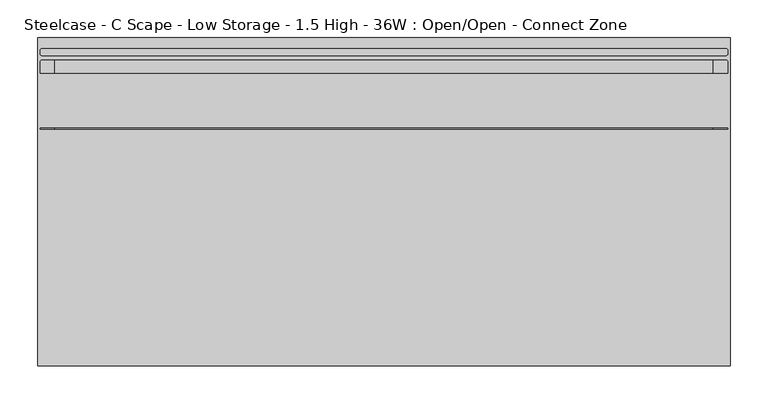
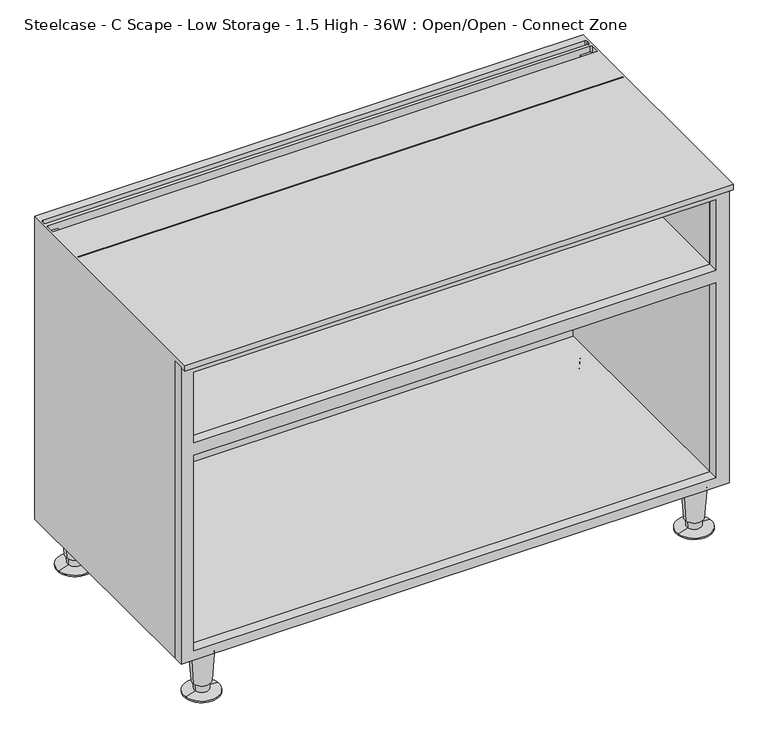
"""IFC4 building model written with IfcOpenShell, lengths in millimetres: furniture geometry, Steelcase - C Scape - Low Storage - 1.5 High - 36W : Open/Open - Connect Zone."""

from ifc_helpers import new_model, si_unit, frame, origin, place, context, project, spatial, polyline, circle_curve, outline, extrude, source, transform, mapped, element, save
from ifc_brep_helpers import plane_surface, cylinder_surface, revolved_surface, advanced_brep


def steelcase_c_scape_low_storage_1_5_high_36w_open_open_connect_6a6320e6(model_context):
    return source(origin(), model_context, "Body", "SolidModel", [
        extrude(outline(polyline([(76.2, 0.0), (76.2, 913.13), (599.44, 913.13), (599.44, 0.0), (76.2, 0.0)]), holes=[polyline([(458.7875121, 891.1617285), (458.7875121, 21.3382324), (582.93, 21.3382324), (582.93, 891.1617285), (458.7875121, 891.1617285)]), polyline([(92.7100024, 891.1617285), (92.7100024, 21.3382324), (436.8419, 21.3382324), (436.8419, 891.1617285), (92.7100024, 891.1617285)])]), frame((0.0, -421.6443408, 0.0), z_axis=(0.0, 1.0, 0.0), x_axis=(0.0, 0.0, 1.0)), (0.0, 0.0, 1.0), 17.2762904),
        advanced_brep(
        [(885.8598695, -31.5218435, 76.2), (848.1981305, -37.2840847, 76.2), (867.029, -34.4029641, 76.2), (881.9095214, -32.1262463, 19.05), (852.1484786, -36.6796819, 19.05), (879.4799345, -32.4979728, 19.05), (854.5780655, -36.3079555, 19.05), (878.791165, -32.6033544, 5.7545598), (855.266835, -36.2025738, 5.7545598), (896.1400485, -29.9489775, 2.5119506), (837.9179515, -38.8569507, 2.5119506), (896.1400485, -29.9489775, 0.0), (837.9179515, -38.8569507, 0.0), (867.029, -34.4029641, 0.0)],
        [
            (0, 1, circle_curve(frame((867.029, -34.4029641, 76.2), z_axis=(0.0, 0.0, 1.0), x_axis=(0.0, -1.0, 0.0)), 19.05)),
            (1, 2),
            (2, 0),
            (1, 0, circle_curve(frame((867.029, -34.4029641, 76.2), z_axis=(0.0, 0.0, 1.0), x_axis=(0.0, -1.0, 0.0)), 19.05)),
            (3, 4, circle_curve(frame((867.029, -34.4029641, 19.05), z_axis=(0.0, 0.0, 1.0), x_axis=(0.0, -1.0, 0.0)), 15.0536827)),
            (4, 1),
            (0, 3),
            (4, 3, circle_curve(frame((867.029, -34.4029641, 19.05), z_axis=(0.0, 0.0, 1.0), x_axis=(0.0, -1.0, 0.0)), 15.0536827)),
            (5, 6, circle_curve(frame((867.029, -34.4029641, 19.05), z_axis=(0.0, 0.0, 1.0), x_axis=(0.0, -1.0, 0.0)), 12.5958232)),
            (6, 4),
            (3, 5),
            (6, 5, circle_curve(frame((867.029, -34.4029641, 19.05), z_axis=(0.0, 0.0, 1.0), x_axis=(0.0, -1.0, 0.0)), 12.5958232)),
            (7, 8, circle_curve(frame((867.029, -34.4029641, 5.7545598), z_axis=(0.0, 0.0, 1.0), x_axis=(0.0, -1.0, 0.0)), 11.8990387)),
            (8, 6),
            (5, 7),
            (8, 7, circle_curve(frame((867.029, -34.4029641, 5.7545598), z_axis=(0.0, 0.0, 1.0), x_axis=(0.0, -1.0, 0.0)), 11.8990387)),
            (9, 10, circle_curve(frame((867.029, -34.4029641, 2.5119506), z_axis=(0.0, 0.0, 1.0), x_axis=(0.0, -1.0, 0.0)), 29.4498071)),
            (10, 8),
            (7, 9),
            (10, 9, circle_curve(frame((867.029, -34.4029641, 2.5119506), z_axis=(0.0, 0.0, 1.0), x_axis=(0.0, -1.0, 0.0)), 29.4498071)),
            (11, 12, circle_curve(frame((867.029, -34.4029641, 0.0), z_axis=(0.0, 0.0, 1.0), x_axis=(0.0, -1.0, 0.0)), 29.4498071)),
            (12, 10),
            (9, 11),
            (12, 11, circle_curve(frame((867.029, -34.4029641, 0.0), z_axis=(0.0, 0.0, 1.0), x_axis=(0.0, -1.0, 0.0)), 29.4498071)),
            (13, 12),
            (11, 13),
        ],
        [
            plane_surface(frame((867.029, -34.4029641, 76.2), z_axis=(0.0, 0.0, 1.0), x_axis=(0.0, -1.0, 0.0))),
            revolved_surface(polyline([(867.029, -53.4529641, 76.2), (867.029, -49.4566468, 19.05)]), (867.029, -34.4029641, 25.4), (0.0, 0.0, -1.0)),
            plane_surface(frame((867.029, -34.4029641, 19.05), z_axis=(0.0, 0.0, -1.0), x_axis=(0.0, -1.0, 0.0))),
            revolved_surface(polyline([(867.029, -46.9987873, 19.05), (867.029, -46.3020028, 5.7545598)]), (867.029, -34.4029641, 25.4), (0.0, 0.0, -1.0)),
            revolved_surface(polyline([(867.029, -46.3020028, 5.7545598), (867.029, -63.8527712, 2.5119506)]), (867.029, -34.4029641, 25.4), (0.0, 0.0, -1.0)),
            cylinder_surface(frame((867.029, -34.4029641, 25.4), z_axis=(0.0, 0.0, -1.0), x_axis=(0.0, -1.0, 0.0)), 29.4498071),
            plane_surface(frame((867.029, -34.4029641, 0.0), z_axis=(0.0, 0.0, -1.0), x_axis=(0.0, -1.0, 0.0))),
        ],
        [
            (0, [[1, 2, 3]]),
            (0, [[4, -3, -2]]),
            (1, [[5, 6, -1, 7]]),
            (1, [[8, -7, -4, -6]]),
            (2, [[9, 10, -5, 11]]),
            (2, [[12, -11, -8, -10]]),
            (3, [[13, 14, -9, 15]]),
            (3, [[16, -15, -12, -14]]),
            (4, [[17, 18, -13, 19]]),
            (4, [[20, -19, -16, -18]]),
            (5, [[21, 22, -17, 23]]),
            (5, [[24, -23, -20, -22]]),
            (6, [[25, -21, 26]]),
            (6, [[-26, -24, -25]]),
        ],
    ),
        advanced_brep(
        [(885.8598695, -397.1702762, 76.2), (848.1981305, -402.9325174, 76.2), (867.029, -400.0513968, 76.2), (881.9095214, -397.774679, 19.05), (852.1484786, -402.3281146, 19.05), (879.4799345, -398.1464055, 19.05), (854.5780655, -401.9563882, 19.05), (878.791165, -398.2517871, 5.7545598), (855.266835, -401.8510065, 5.7545598), (896.1400485, -395.5974102, 2.5119506), (837.9179515, -404.5053834, 2.5119506), (896.1400485, -395.5974102, 0.0), (837.9179515, -404.5053834, 0.0), (867.029, -400.0513968, 0.0)],
        [
            (0, 1, circle_curve(frame((867.029, -400.0513968, 76.2), z_axis=(0.0, 0.0, 1.0), x_axis=(0.0, -1.0, 0.0)), 19.05)),
            (1, 2),
            (2, 0),
            (1, 0, circle_curve(frame((867.029, -400.0513968, 76.2), z_axis=(0.0, 0.0, 1.0), x_axis=(0.0, -1.0, 0.0)), 19.05)),
            (3, 4, circle_curve(frame((867.029, -400.0513968, 19.05), z_axis=(0.0, 0.0, 1.0), x_axis=(0.0, -1.0, 0.0)), 15.0536827)),
            (4, 1),
            (0, 3),
            (4, 3, circle_curve(frame((867.029, -400.0513968, 19.05), z_axis=(0.0, 0.0, 1.0), x_axis=(0.0, -1.0, 0.0)), 15.0536827)),
            (5, 6, circle_curve(frame((867.029, -400.0513968, 19.05), z_axis=(0.0, 0.0, 1.0), x_axis=(0.0, -1.0, 0.0)), 12.5958232)),
            (6, 4),
            (3, 5),
            (6, 5, circle_curve(frame((867.029, -400.0513968, 19.05), z_axis=(0.0, 0.0, 1.0), x_axis=(0.0, -1.0, 0.0)), 12.5958232)),
            (7, 8, circle_curve(frame((867.029, -400.0513968, 5.7545598), z_axis=(0.0, 0.0, 1.0), x_axis=(0.0, -1.0, 0.0)), 11.8990387)),
            (8, 6),
            (5, 7),
            (8, 7, circle_curve(frame((867.029, -400.0513968, 5.7545598), z_axis=(0.0, 0.0, 1.0), x_axis=(0.0, -1.0, 0.0)), 11.8990387)),
            (9, 10, circle_curve(frame((867.029, -400.0513968, 2.5119506), z_axis=(0.0, 0.0, 1.0), x_axis=(0.0, -1.0, 0.0)), 29.4498071)),
            (10, 8),
            (7, 9),
            (10, 9, circle_curve(frame((867.029, -400.0513968, 2.5119506), z_axis=(0.0, 0.0, 1.0), x_axis=(0.0, -1.0, 0.0)), 29.4498071)),
            (11, 12, circle_curve(frame((867.029, -400.0513968, 0.0), z_axis=(0.0, 0.0, 1.0), x_axis=(0.0, -1.0, 0.0)), 29.4498071)),
            (12, 10),
            (9, 11),
            (12, 11, circle_curve(frame((867.029, -400.0513968, 0.0), z_axis=(0.0, 0.0, 1.0), x_axis=(0.0, -1.0, 0.0)), 29.4498071)),
            (13, 12),
            (11, 13),
        ],
        [
            plane_surface(frame((867.029, -400.0513968, 76.2), z_axis=(0.0, 0.0, 1.0), x_axis=(0.0, -1.0, 0.0))),
            revolved_surface(polyline([(867.029, -419.1013968, 76.2), (867.029, -415.1050795, 19.05)]), (867.029, -400.0513968, 25.4), (0.0, 0.0, -1.0)),
            plane_surface(frame((867.029, -400.0513968, 19.05), z_axis=(0.0, 0.0, -1.0), x_axis=(0.0, -1.0, 0.0))),
            revolved_surface(polyline([(867.029, -412.64722, 19.05), (867.029, -411.9504355, 5.7545598)]), (867.029, -400.0513968, 25.4), (0.0, 0.0, -1.0)),
            revolved_surface(polyline([(867.029, -411.9504355, 5.7545598), (867.029, -429.5012039, 2.5119506)]), (867.029, -400.0513968, 25.4), (0.0, 0.0, -1.0)),
            cylinder_surface(frame((867.029, -400.0513968, 25.4), z_axis=(0.0, 0.0, -1.0), x_axis=(0.0, -1.0, 0.0)), 29.4498071),
            plane_surface(frame((867.029, -400.0513968, 0.0), z_axis=(0.0, 0.0, -1.0), x_axis=(0.0, -1.0, 0.0))),
        ],
        [
            (0, [[1, 2, 3]]),
            (0, [[4, -3, -2]]),
            (1, [[5, 6, -1, 7]]),
            (1, [[8, -7, -4, -6]]),
            (2, [[9, 10, -5, 11]]),
            (2, [[12, -11, -8, -10]]),
            (3, [[13, 14, -9, 15]]),
            (3, [[16, -15, -12, -14]]),
            (4, [[17, 18, -13, 19]]),
            (4, [[20, -19, -16, -18]]),
            (5, [[21, 22, -17, 23]]),
            (5, [[24, -23, -20, -22]]),
            (6, [[25, -21, 26]]),
            (6, [[-26, -24, -25]]),
        ],
    ),
        advanced_brep(
        [(65.5422821, -397.1702762, 76.2), (27.8805432, -402.9325174, 76.2), (46.7114126, -400.0513968, 76.2), (61.5919341, -397.774679, 19.05), (31.8308912, -402.3281146, 19.05), (59.1623471, -398.1464055, 19.05), (34.2604781, -401.9563882, 19.05), (58.4735776, -398.2517871, 5.7545598), (34.9492476, -401.8510065, 5.7545598), (75.8224611, -395.5974102, 2.5119506), (17.6003641, -404.5053834, 2.5119506), (75.8224611, -395.5974102, 0.0), (17.6003641, -404.5053834, 0.0), (46.7114126, -400.0513968, 0.0)],
        [
            (0, 1, circle_curve(frame((46.7114126, -400.0513968, 76.2), z_axis=(0.0, 0.0, 1.0), x_axis=(0.0, -1.0, 0.0)), 19.05)),
            (1, 2),
            (2, 0),
            (1, 0, circle_curve(frame((46.7114126, -400.0513968, 76.2), z_axis=(0.0, 0.0, 1.0), x_axis=(0.0, -1.0, 0.0)), 19.05)),
            (3, 4, circle_curve(frame((46.7114126, -400.0513968, 19.05), z_axis=(0.0, 0.0, 1.0), x_axis=(0.0, -1.0, 0.0)), 15.0536827)),
            (4, 1),
            (0, 3),
            (4, 3, circle_curve(frame((46.7114126, -400.0513968, 19.05), z_axis=(0.0, 0.0, 1.0), x_axis=(0.0, -1.0, 0.0)), 15.0536827)),
            (5, 6, circle_curve(frame((46.7114126, -400.0513968, 19.05), z_axis=(0.0, 0.0, 1.0), x_axis=(0.0, -1.0, 0.0)), 12.5958232)),
            (6, 4),
            (3, 5),
            (6, 5, circle_curve(frame((46.7114126, -400.0513968, 19.05), z_axis=(0.0, 0.0, 1.0), x_axis=(0.0, -1.0, 0.0)), 12.5958232)),
            (7, 8, circle_curve(frame((46.7114126, -400.0513968, 5.7545598), z_axis=(0.0, 0.0, 1.0), x_axis=(0.0, -1.0, 0.0)), 11.8990387)),
            (8, 6),
            (5, 7),
            (8, 7, circle_curve(frame((46.7114126, -400.0513968, 5.7545598), z_axis=(0.0, 0.0, 1.0), x_axis=(0.0, -1.0, 0.0)), 11.8990387)),
            (9, 10, circle_curve(frame((46.7114126, -400.0513968, 2.5119506), z_axis=(0.0, 0.0, 1.0), x_axis=(0.0, -1.0, 0.0)), 29.4498071)),
            (10, 8),
            (7, 9),
            (10, 9, circle_curve(frame((46.7114126, -400.0513968, 2.5119506), z_axis=(0.0, 0.0, 1.0), x_axis=(0.0, -1.0, 0.0)), 29.4498071)),
            (11, 12, circle_curve(frame((46.7114126, -400.0513968, 0.0), z_axis=(0.0, 0.0, 1.0), x_axis=(0.0, -1.0, 0.0)), 29.4498071)),
            (12, 10),
            (9, 11),
            (12, 11, circle_curve(frame((46.7114126, -400.0513968, 0.0), z_axis=(0.0, 0.0, 1.0), x_axis=(0.0, -1.0, 0.0)), 29.4498071)),
            (13, 12),
            (11, 13),
        ],
        [
            plane_surface(frame((46.7114126, -400.0513968, 76.2), z_axis=(0.0, 0.0, 1.0), x_axis=(0.0, -1.0, 0.0))),
            revolved_surface(polyline([(46.7114126, -419.1013968, 76.2), (46.7114126, -415.1050795, 19.05)]), (46.7114126, -400.0513968, 25.4), (0.0, 0.0, -1.0)),
            plane_surface(frame((46.7114126, -400.0513968, 19.05), z_axis=(0.0, 0.0, -1.0), x_axis=(0.0, -1.0, 0.0))),
            revolved_surface(polyline([(46.7114126, -412.64722, 19.05), (46.7114126, -411.9504355, 5.7545598)]), (46.7114126, -400.0513968, 25.4), (0.0, 0.0, -1.0)),
            revolved_surface(polyline([(46.7114126, -411.9504355, 5.7545598), (46.7114126, -429.5012039, 2.5119506)]), (46.7114126, -400.0513968, 25.4), (0.0, 0.0, -1.0)),
            cylinder_surface(frame((46.7114126, -400.0513968, 25.4), z_axis=(0.0, 0.0, -1.0), x_axis=(0.0, -1.0, 0.0)), 29.4498071),
            plane_surface(frame((46.7114126, -400.0513968, 0.0), z_axis=(0.0, 0.0, -1.0), x_axis=(0.0, -1.0, 0.0))),
        ],
        [
            (0, [[1, 2, 3]]),
            (0, [[4, -3, -2]]),
            (1, [[5, 6, -1, 7]]),
            (1, [[8, -7, -4, -6]]),
            (2, [[9, 10, -5, 11]]),
            (2, [[12, -11, -8, -10]]),
            (3, [[13, 14, -9, 15]]),
            (3, [[16, -15, -12, -14]]),
            (4, [[17, 18, -13, 19]]),
            (4, [[20, -19, -16, -18]]),
            (5, [[21, 22, -17, 23]]),
            (5, [[24, -23, -20, -22]]),
            (6, [[25, -21, 26]]),
            (6, [[-26, -24, -25]]),
        ],
    ),
        advanced_brep(
        [(65.5422821, -31.5218435, 76.2), (27.8805432, -37.2840847, 76.2), (46.7114126, -34.4029641, 76.2), (61.5919341, -32.1262463, 19.05), (31.8308912, -36.6796819, 19.05), (59.1623471, -32.4979728, 19.05), (34.2604781, -36.3079555, 19.05), (58.4735776, -32.6033544, 5.7545598), (34.9492476, -36.2025738, 5.7545598), (75.8224611, -29.9489775, 2.5119506), (17.6003641, -38.8569507, 2.5119506), (75.8224611, -29.9489775, 0.0), (17.6003641, -38.8569507, 0.0), (46.7114126, -34.4029641, 0.0)],
        [
            (0, 1, circle_curve(frame((46.7114126, -34.4029641, 76.2), z_axis=(0.0, 0.0, 1.0), x_axis=(0.0, -1.0, 0.0)), 19.05)),
            (1, 2),
            (2, 0),
            (1, 0, circle_curve(frame((46.7114126, -34.4029641, 76.2), z_axis=(0.0, 0.0, 1.0), x_axis=(0.0, -1.0, 0.0)), 19.05)),
            (3, 4, circle_curve(frame((46.7114126, -34.4029641, 19.05), z_axis=(0.0, 0.0, 1.0), x_axis=(0.0, -1.0, 0.0)), 15.0536827)),
            (4, 1),
            (0, 3),
            (4, 3, circle_curve(frame((46.7114126, -34.4029641, 19.05), z_axis=(0.0, 0.0, 1.0), x_axis=(0.0, -1.0, 0.0)), 15.0536827)),
            (5, 6, circle_curve(frame((46.7114126, -34.4029641, 19.05), z_axis=(0.0, 0.0, 1.0), x_axis=(0.0, -1.0, 0.0)), 12.5958232)),
            (6, 4),
            (3, 5),
            (6, 5, circle_curve(frame((46.7114126, -34.4029641, 19.05), z_axis=(0.0, 0.0, 1.0), x_axis=(0.0, -1.0, 0.0)), 12.5958232)),
            (7, 8, circle_curve(frame((46.7114126, -34.4029641, 5.7545598), z_axis=(0.0, 0.0, 1.0), x_axis=(0.0, -1.0, 0.0)), 11.8990387)),
            (8, 6),
            (5, 7),
            (8, 7, circle_curve(frame((46.7114126, -34.4029641, 5.7545598), z_axis=(0.0, 0.0, 1.0), x_axis=(0.0, -1.0, 0.0)), 11.8990387)),
            (9, 10, circle_curve(frame((46.7114126, -34.4029641, 2.5119506), z_axis=(0.0, 0.0, 1.0), x_axis=(0.0, -1.0, 0.0)), 29.4498071)),
            (10, 8),
            (7, 9),
            (10, 9, circle_curve(frame((46.7114126, -34.4029641, 2.5119506), z_axis=(0.0, 0.0, 1.0), x_axis=(0.0, -1.0, 0.0)), 29.4498071)),
            (11, 12, circle_curve(frame((46.7114126, -34.4029641, 0.0), z_axis=(0.0, 0.0, 1.0), x_axis=(0.0, -1.0, 0.0)), 29.4498071)),
            (12, 10),
            (9, 11),
            (12, 11, circle_curve(frame((46.7114126, -34.4029641, 0.0), z_axis=(0.0, 0.0, 1.0), x_axis=(0.0, -1.0, 0.0)), 29.4498071)),
            (13, 12),
            (11, 13),
        ],
        [
            plane_surface(frame((46.7114126, -34.4029641, 76.2), z_axis=(0.0, 0.0, 1.0), x_axis=(0.0, -1.0, 0.0))),
            revolved_surface(polyline([(46.7114126, -53.4529641, 76.2), (46.7114126, -49.4566468, 19.05)]), (46.7114126, -34.4029641, 25.4), (0.0, 0.0, -1.0)),
            plane_surface(frame((46.7114126, -34.4029641, 19.05), z_axis=(0.0, 0.0, -1.0), x_axis=(0.0, -1.0, 0.0))),
            revolved_surface(polyline([(46.7114126, -46.9987873, 19.05), (46.7114126, -46.3020028, 5.7545598)]), (46.7114126, -34.4029641, 25.4), (0.0, 0.0, -1.0)),
            revolved_surface(polyline([(46.7114126, -46.3020028, 5.7545598), (46.7114126, -63.8527712, 2.5119506)]), (46.7114126, -34.4029641, 25.4), (0.0, 0.0, -1.0)),
            cylinder_surface(frame((46.7114126, -34.4029641, 25.4), z_axis=(0.0, 0.0, -1.0), x_axis=(0.0, -1.0, 0.0)), 29.4498071),
            plane_surface(frame((46.7114126, -34.4029641, 0.0), z_axis=(0.0, 0.0, -1.0), x_axis=(0.0, -1.0, 0.0))),
        ],
        [
            (0, [[1, 2, 3]]),
            (0, [[4, -3, -2]]),
            (1, [[5, 6, -1, 7]]),
            (1, [[8, -7, -4, -6]]),
            (2, [[9, 10, -5, 11]]),
            (2, [[12, -11, -8, -10]]),
            (3, [[13, 14, -9, 15]]),
            (3, [[16, -15, -12, -14]]),
            (4, [[17, 18, -13, 19]]),
            (4, [[20, -19, -16, -18]]),
            (5, [[21, 22, -17, 23]]),
            (5, [[24, -23, -20, -22]]),
            (6, [[25, -21, 26]]),
            (6, [[-26, -24, -25]]),
        ],
    ),
        advanced_brep(
        [(910.3272317, -120.6444193, 609.6), (910.3272317, -119.3775195, 609.6), (910.3272317, -119.3775195, 599.44), (910.3272317, -120.6444193, 599.44), (910.3272317, -46.4703418, 609.6), (910.3272317, -32.274699, 609.6), (910.3272317, -32.274699, 599.44), (910.3272317, -46.4703418, 599.44), (910.3272317, -20.3138654, 609.6), (910.3272317, -17.0388453, 609.6), (910.3272317, -17.0388453, 599.44), (910.3272317, -20.3138654, 599.44), (913.13, 0.0055807, 609.6), (913.13, -433.07, 609.6), (913.13, -433.07, 599.44), (913.13, -404.3680504, 599.44), (913.13, -404.3680504, 76.2), (913.13, 0.0, 76.2), (0.0, -433.07, 609.6), (-0.012551, 0.0055807, 609.6), (907.6308823, -29.5783496, 609.6), (2.7826272, -46.4703418, 609.6), (2.7826272, -32.0458511, 609.6), (5.2501287, -29.5783496, 609.6), (907.3507358, -23.2903613, 609.6), (5.5670648, -23.2903613, 609.6), (2.7826272, -20.5059237, 609.6), (2.7826272, -17.0388453, 609.6), (5.4794022, -14.3420703, 609.6), (907.6304567, -14.3420703, 609.6), (2.7826272, -119.3775195, 609.6), (2.7826272, -120.6444193, 609.6), (0.0, 0.0055807, 76.2), (571.8775189, 0.0055807, 466.2677968), (340.6174811, 0.0055807, 466.2677968), (340.6174811, 0.0055807, 432.6382043), (456.2475, 0.0055807, 432.6382043), (571.8775189, 0.0055807, 432.6382043), (571.8775189, -9.5194193, 466.2677968), (340.6174811, -9.5194193, 466.2677968), (571.8775189, -9.5194193, 450.8499879), (340.6174811, -9.5194193, 450.8499879), (5.2501287, -29.5783496, 599.44), (21.3256814, -29.5783496, 599.44), (21.3256814, -29.5783496, 458.7875121), (891.1617285, -29.5783496, 458.7875121), (891.1617285, -29.5783496, 599.44), (907.6308823, -29.5783496, 599.44), (891.1617285, -119.3775195, 599.44), (21.3256814, -119.3775195, 599.44), (21.3256814, -46.4703418, 599.44), (891.1617285, -46.4703418, 599.44), (907.3507358, -23.2903613, 599.44), (5.5670648, -23.2903613, 599.44), (2.7826272, -20.5059237, 599.44), (2.7826272, -32.0458511, 599.44), (2.7826272, -46.4703418, 599.44), (2.7826272, -119.3775195, 599.44), (5.4794022, -14.3420703, 599.44), (907.6304567, -14.3420703, 599.44), (2.7826272, -17.0388453, 599.44), (21.3256814, -120.6444193, 599.44), (2.7826272, -120.6444193, 599.44), (891.1617285, -120.6444193, 599.44), (21.3256814, -404.3680504, 92.7100024), (891.1617285, -404.3680504, 92.7100024), (891.1617285, -9.5194193, 92.7100024), (21.3256814, -9.5194193, 92.7100024), (0.0, -404.3680504, 76.2), (0.0, -404.3680504, 599.44), (0.0, -433.07, 599.44), (891.1617285, -404.3680504, 599.44), (891.1617285, -404.3680504, 458.7875121), (21.3256814, -404.3680504, 458.7875121), (21.3256814, -404.3680504, 599.44), (21.3256814, -404.3680504, 450.8499879), (891.1617285, -404.3680504, 450.8499879), (21.3256814, -126.9863574, 599.44), (891.1617285, -126.9863574, 599.44), (21.3256814, -126.9863574, 458.7875121), (891.1617285, -126.9863574, 458.7875121), (891.1617285, -120.6444193, 458.7875121), (21.3256814, -120.6444193, 458.7875121), (21.3256814, -9.5194193, 450.8499879), (891.1617285, -9.5194193, 450.8499879), (571.8775189, -9.5194193, 432.6382043), (456.2475, -9.5194193, 432.6382043), (340.6174811, -9.5194193, 432.6382043)],
        [
            (0, 1),
            (1, 2),
            (2, 3),
            (3, 0),
            (4, 5),
            (5, 6),
            (6, 7),
            (7, 4),
            (8, 9),
            (9, 10),
            (10, 11),
            (11, 8),
            (12, 13),
            (13, 14),
            (14, 15),
            (15, 16),
            (16, 17),
            (17, 12),
            (18, 13),
            (12, 19),
            (19, 18),
            (20, 5, circle_curve(frame((907.6308823, -32.274699, 609.6), z_axis=(0.0, 0.0, -1.0), x_axis=(1.0, 0.0, 0.0)), 2.6963494)),
            (4, 21),
            (21, 22),
            (22, 23, circle_curve(frame((5.2501287, -32.0458511, 609.6), z_axis=(0.0, 0.0, -1.0), x_axis=(1.0, 0.0, 0.0)), 2.4675015)),
            (23, 20),
            (8, 24, circle_curve(frame((907.3507358, -20.3138654, 609.6), z_axis=(0.0, 0.0, -1.0), x_axis=(1.0, 0.0, 0.0)), 2.9764959)),
            (24, 25),
            (25, 26, circle_curve(frame((5.5670648, -20.5059237, 609.6), z_axis=(0.0, 0.0, -1.0), x_axis=(1.0, 0.0, 0.0)), 2.7844376)),
            (26, 27),
            (27, 28, circle_curve(frame((5.4794022, -17.0388453, 609.6), z_axis=(0.0, 0.0, -1.0), x_axis=(1.0, 0.0, 0.0)), 2.696775)),
            (28, 29),
            (29, 9, circle_curve(frame((907.6304567, -17.0388453, 609.6), z_axis=(0.0, 0.0, -1.0), x_axis=(1.0, 0.0, 0.0)), 2.696775)),
            (30, 1),
            (0, 31),
            (31, 30),
            (17, 32),
            (32, 19),
            (33, 34),
            (34, 35),
            (35, 36),
            (36, 37),
            (37, 33),
            (33, 38),
            (38, 39),
            (39, 34),
            (38, 40),
            (40, 41),
            (41, 39),
            (23, 42),
            (42, 43),
            (43, 44),
            (44, 45),
            (45, 46),
            (46, 47),
            (47, 20),
            (48, 49),
            (49, 50),
            (50, 51),
            (51, 48),
            (47, 6, circle_curve(frame((907.6308823, -32.274699, 599.44), z_axis=(0.0, 0.0, -1.0), x_axis=(1.0, 0.0, 0.0)), 2.6963494)),
            (11, 52, circle_curve(frame((907.3507358, -20.3138654, 599.44), z_axis=(0.0, 0.0, -1.0), x_axis=(1.0, 0.0, 0.0)), 2.9764959)),
            (52, 24),
            (52, 53),
            (53, 25),
            (53, 54, circle_curve(frame((5.5670648, -20.5059237, 599.44), z_axis=(0.0, 0.0, -1.0), x_axis=(1.0, 0.0, 0.0)), 2.7844376)),
            (54, 26),
            (22, 55),
            (55, 42, circle_curve(frame((5.2501287, -32.0458511, 599.44), z_axis=(0.0, 0.0, -1.0), x_axis=(1.0, 0.0, 0.0)), 2.4675015)),
            (7, 51),
            (50, 56),
            (56, 21),
            (30, 57),
            (57, 49),
            (48, 2),
            (28, 58),
            (58, 59),
            (59, 29),
            (59, 10, circle_curve(frame((907.6304567, -17.0388453, 599.44), z_axis=(0.0, 0.0, -1.0), x_axis=(1.0, 0.0, 0.0)), 2.696775)),
            (27, 60),
            (60, 58, circle_curve(frame((5.4794022, -17.0388453, 599.44), z_axis=(0.0, 0.0, -1.0), x_axis=(1.0, 0.0, 0.0)), 2.696775)),
            (61, 49),
            (57, 62),
            (62, 61),
            (48, 63),
            (63, 3),
            (60, 54),
            (50, 43),
            (55, 56),
            (46, 51),
            (64, 65),
            (65, 66),
            (66, 67),
            (67, 64),
            (16, 68),
            (68, 32),
            (68, 69),
            (69, 70),
            (70, 18),
            (15, 71),
            (71, 72),
            (72, 73),
            (73, 74),
            (74, 69),
            (64, 75),
            (75, 76),
            (76, 65),
            (70, 14),
            (74, 77),
            (77, 78),
            (78, 71),
            (77, 79),
            (79, 80),
            (80, 78),
            (63, 81),
            (81, 82),
            (82, 61),
            (62, 31),
            (44, 82),
            (81, 45),
            (79, 73),
            (72, 80),
            (75, 83),
            (83, 41),
            (40, 84),
            (84, 76),
            (67, 83),
            (84, 66),
            (85, 86),
            (86, 87),
            (87, 41),
            (40, 85),
            (37, 85),
            (36, 86),
            (35, 87),
        ],
        [
            plane_surface(frame((910.3272317, -120.6444193, 609.6), z_axis=(-1.0, 0.0, 0.0), x_axis=(0.0, 0.0, 1.0))),
            plane_surface(frame((913.13, -120.6444193, 609.6), z_axis=(1.0, 0.0, 0.0), x_axis=(0.0, 0.0, -1.0))),
            plane_surface(frame((910.3272317, -120.6444193, 609.6), z_axis=(0.0, 0.0, 1.0), x_axis=(1.0, 0.0, 0.0))),
            plane_surface(frame((910.3272317, 0.0055807, 609.6), z_axis=(0.0, 1.0, 0.0), x_axis=(1.0, 0.0, 0.0))),
            plane_surface(frame((910.3272317, 0.0055807, 466.2677968), z_axis=(0.0, 0.0, -1.0), x_axis=(1.0, 0.0, 0.0))),
            plane_surface(frame((910.3272317, -9.5194193, 466.2677968), z_axis=(0.0, 1.0, 0.0), x_axis=(1.0, 0.0, 0.0))),
            plane_surface(frame((910.3272317, -29.5783496, 458.7875121), z_axis=(0.0, -1.0, 0.0), x_axis=(1.0, 0.0, 0.0))),
            plane_surface(frame((910.3272317, -29.5783496, 599.44), z_axis=(0.0, 0.0, -1.0), x_axis=(1.0, 0.0, 0.0))),
            revolved_surface(polyline([(910.3272317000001, -32.274699, 599.44), (910.3272317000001, -32.274699, 609.6)]), (907.6308823, -32.274699, 599.44), (0.0, 0.0, -1.0)),
            revolved_surface(polyline([(910.3272317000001, -20.3138654, 599.44), (910.3272317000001, -20.3138654, 609.6)]), (907.3507358, -20.3138654, 599.44), (0.0, 0.0, -1.0)),
            plane_surface(frame((907.3507358, -23.2903613, 609.6), z_axis=(0.0, 1.0, 0.0), x_axis=(0.0, 0.0, -1.0))),
            revolved_surface(polyline([(8.3515024, -20.5059237, 599.44), (8.3515024, -20.5059237, 609.6)]), (5.5670648, -20.5059237, 599.44), (0.0, 0.0, -1.0)),
            revolved_surface(polyline([(7.7176302, -32.0458511, 599.44), (7.7176302, -32.0458511, 609.6)]), (5.2501287, -32.0458511, 599.44), (0.0, 0.0, -1.0)),
            plane_surface(frame((910.3272317, -46.4703418, 609.6), z_axis=(0.0, 1.0, 0.0), x_axis=(0.0, 0.0, -1.0))),
            plane_surface(frame((2.7826272, -119.3775195, 609.6), z_axis=(0.0, -1.0, 0.0), x_axis=(0.0, 0.0, -1.0))),
            plane_surface(frame((5.4794022, -14.3420703, 609.6), z_axis=(0.0, -1.0, 0.0), x_axis=(0.0, 0.0, -1.0))),
            revolved_surface(polyline([(910.3272317, -17.0388453, 599.44), (910.3272317, -17.0388453, 609.6)]), (907.6304567, -17.0388453, 41.6295811), (0.0, 0.0, -1.0)),
            revolved_surface(polyline([(8.1761772, -17.0388453, 599.44), (8.1761772, -17.0388453, 609.6)]), (5.4794022, -17.0388453, 41.6295811), (0.0, 0.0, -1.0)),
            plane_surface(frame((910.3272317, 0.0055807, 599.44), z_axis=(0.0, 0.0, 1.0), x_axis=(-1.0, 0.0, 0.0))),
            plane_surface(frame((0.0, 0.0, 92.7100024), z_axis=(0.0, 0.0, 1.0), x_axis=(-1.0, 0.0, 0.0))),
            plane_surface(frame((0.0, 0.0, 76.2), z_axis=(0.0, 0.0, -1.0), x_axis=(1.0, 0.0, 0.0))),
            plane_surface(frame((0.0, 0.0, 92.7100024), z_axis=(-1.0, 0.0, 0.0), x_axis=(0.0, 0.0, -1.0))),
            plane_surface(frame((0.0, -404.3680504, 92.7100024), z_axis=(0.0, -1.0, 0.0), x_axis=(0.0, 0.0, -1.0))),
            plane_surface(frame((913.13, -433.07, 609.6), z_axis=(0.0, -1.0, 0.0), x_axis=(-1.0, 0.0, 0.0))),
            plane_surface(frame((913.13, -433.07, 599.44), z_axis=(0.0, 0.0, -1.0), x_axis=(-1.0, 0.0, 0.0))),
            plane_surface(frame((913.13, -126.9863574, 599.44), z_axis=(0.0, -1.0, 0.0), x_axis=(-1.0, 0.0, 0.0))),
            plane_surface(frame((913.13, -120.6444193, 457.1999955), z_axis=(0.0, 1.0, 0.0), x_axis=(-1.0, 0.0, 0.0))),
            plane_surface(frame((0.0, -9.5194193, 458.7875121), z_axis=(0.0, 0.0, 1.0), x_axis=(-1.0, 0.0, 0.0))),
            plane_surface(frame((0.0, -9.5194193, 450.8499879), z_axis=(0.0, 0.0, -1.0), x_axis=(1.0, 0.0, 0.0))),
            plane_surface(frame((21.3256814, -404.3680504, 599.44), z_axis=(1.0, 0.0, 0.0), x_axis=(0.0, 0.0, -1.0))),
            plane_surface(frame((891.1617285, -9.5194193, 599.44), z_axis=(-1.0, 0.0, 0.0), x_axis=(0.0, 0.0, -1.0))),
            plane_surface(frame((2.7826272, -120.6444193, 599.44), z_axis=(1.0, 0.0, 0.0), x_axis=(0.0, 1.0, 0.0))),
            plane_surface(frame((571.8775189, -9.5194193, 459.9177968), z_axis=(0.0, -1.0, 0.0), x_axis=(0.0, 0.0, -1.0))),
            plane_surface(frame((571.8775189, -9.5194193, 466.2677968), z_axis=(-1.0, 0.0, 0.0), x_axis=(0.0, 1.0, 0.0))),
            plane_surface(frame((571.8775189, -9.5194193, 432.6382043), z_axis=(0.0, 0.0, 1.0), x_axis=(0.0, 1.0, 0.0))),
            plane_surface(frame((456.2475, -9.5194193, 432.6382043), z_axis=(0.0, 0.0, 1.0), x_axis=(0.0, 1.0, 0.0))),
            plane_surface(frame((340.6174811, -9.5194193, 432.6382043), z_axis=(1.0, 0.0, 0.0), x_axis=(0.0, 1.0, 0.0))),
        ],
        [
            (0, [[1, 2, 3, 4]]),
            (0, [[5, 6, 7, 8]]),
            (0, [[9, 10, 11, 12]]),
            (1, [[13, 14, 15, 16, 17, 18]]),
            (2, [[19, -13, 20, 21], [22, -5, 23, 24, 25, 26], [27, 28, 29, 30, 31, 32, 33, -9], [34, -1, 35, 36]]),
            (3, [[-18, 37, 38, -20], [39, 40, 41, 42, 43]]),
            (4, [[-39, 44, 45, 46]]),
            (5, [[-45, 47, 48, 49]]),
            (6, [[-26, 50, 51, 52, 53, 54, 55, 56]]),
            (7, [[57, 58, 59, 60]]),
            (8, [[-22, -56, 61, -6]]),
            (9, [[-27, -12, 62, 63]]),
            (10, [[-28, -63, 64, 65]]),
            (11, [[-29, -65, 66, 67]]),
            (12, [[-25, 68, 69, -50]]),
            (13, [[-23, -8, 70, -59, 71, 72]]),
            (14, [[-34, 73, 74, -57, 75, -2]]),
            (15, [[-32, 76, 77, 78]]),
            (16, [[-33, -78, 79, -10]]),
            (17, [[-31, 80, 81, -76]]),
            (18, [[82, -74, 83, 84]]),
            (18, [[85, 86, -3, -75]]),
            (18, [[-11, -79, -77, -81, 87, -66, -64, -62]]),
            (18, [[88, -51, -69, 89, -71]]),
            (18, [[90, -70, -7, -61, -55]]),
            (19, [[91, 92, 93, 94]]),
            (20, [[-17, 95, 96, -37]]),
            (21, [[-38, -96, 97, 98, 99, -21]]),
            (22, [[-95, -16, 100, 101, 102, 103, 104, -97], [-91, 105, 106, 107]]),
            (23, [[-14, -19, -99, 108]]),
            (24, [[-108, -98, -104, 109, 110, 111, -100, -15]]),
            (25, [[-110, 112, 113, 114]]),
            (26, [[-4, -86, 115, 116, 117, -84, 118, -35]]),
            (27, [[-53, 119, -116, 120]]),
            (27, [[-113, 121, -102, 122]]),
            (28, [[-106, 123, 124, -48, 125, 126]]),
            (29, [[-103, -121, -112, -109]]),
            (29, [[-105, -94, 127, -123]]),
            (29, [[-88, -58, -82, -117, -119, -52]]),
            (30, [[-101, -111, -114, -122]]),
            (30, [[-107, -126, 128, -92]]),
            (30, [[-90, -54, -120, -115, -85, -60]]),
            (31, [[-24, -72, -89, -68]]),
            (31, [[-30, -67, -87, -80]]),
            (31, [[-36, -118, -83, -73]]),
            (32, [[129, 130, 131, -124, -127, -93, -128, -125, 132]]),
            (33, [[-43, 133, -132, -47, -44]]),
            (34, [[-129, -133, -42, 134]]),
            (35, [[-130, -134, -41, 135]]),
            (36, [[-40, -46, -49, -131, -135]]),
        ],
    ),
    ])


if __name__ == "__main__":
    model = new_model("IFC4")
    model_context = context("Model", 3, world=origin())
    ifc_project = project(units=[si_unit("LENGTHUNIT", "METRE", prefix="MILLI")], contexts=[model_context])
    site = spatial("IfcSite", under=ifc_project)
    building = spatial("IfcBuilding", under=site)
    placement = place(None, origin())
    steelcase_c_scape_low_storage_1_5_high_36w_open_open_connect_shape = steelcase_c_scape_low_storage_1_5_high_36w_open_open_connect_6a6320e6(model_context)
    element("IfcFurniture", 1, ObjectType="Steelcase - C Scape - Low Storage - 1.5 High - 36W : Open/Open - Connect Zone", at=placement, inside=building, context=model_context, shape_type="MappedRepresentation", body=[
        mapped(steelcase_c_scape_low_storage_1_5_high_36w_open_open_connect_shape, transform((0.0, 0.0, 0.0), x_axis=(1.0, 0.0, 0.0), y_axis=(0.0, 1.0, 0.0), z_axis=(0.0, 0.0, 1.0))),
    ])
    save(model, "model.ifc")
